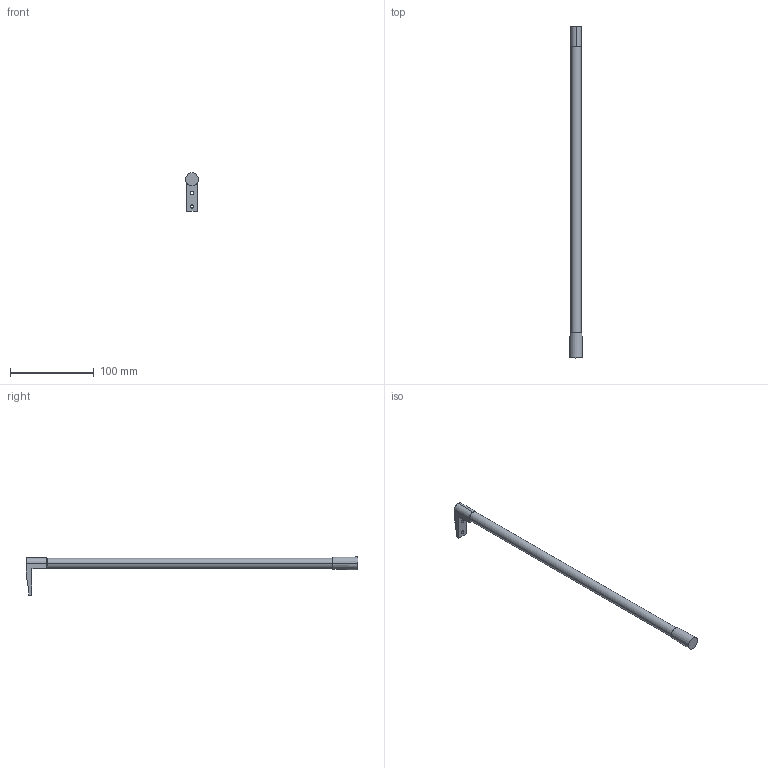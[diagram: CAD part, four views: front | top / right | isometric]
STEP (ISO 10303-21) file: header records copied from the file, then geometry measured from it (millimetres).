
FILE_DESCRIPTION (( 'STEP AP214' ), '1' );
FILE_NAME ('IMOS_Anschraubreling_Set_NL400.step', '2010-10-07T16:15:21', ( 'Grass' ), ( '' ), 'SwSTEP 2.0', 'SolidWorks 2010', '' );
FILE_SCHEMA (( 'AUTOMOTIVE_DESIGN' ));
Length unit declared in the file: millimetre
Products named in the file (1): IMOS_Anschraubreling_Set_NL400
Bounding box: 15.5 x 396.9 x 45.75 mm (x, y, z)
Volume: 49749.2 mm3; surface area: 17151.6 mm2
Topology: 1 solids, 1 shells, 24 faces, 57 edges, 38 vertices
Faces by surface type: plane 12, cylinder 10, cone 2
Entity records: 745 total; most frequent: DIRECTION 127, CARTESIAN_POINT 126, ORIENTED_EDGE 114, EDGE_CURVE 57, AXIS2_PLACEMENT_3D 47, VERTEX_POINT 38, LINE 33, VECTOR 33
